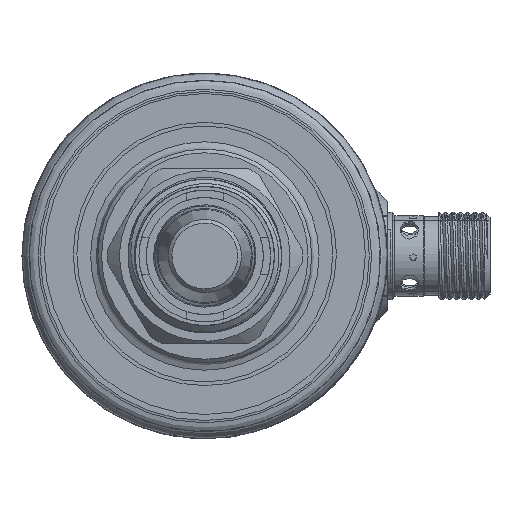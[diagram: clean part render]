
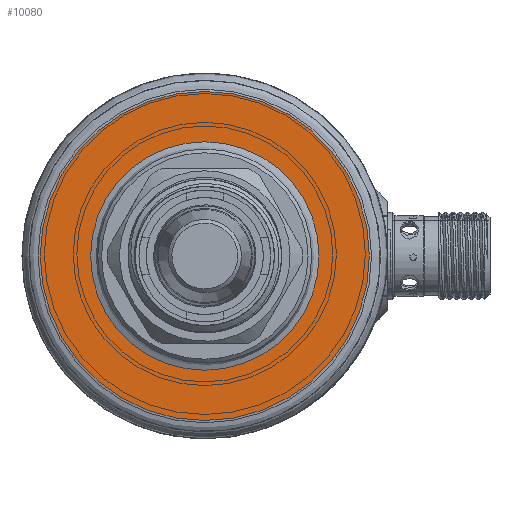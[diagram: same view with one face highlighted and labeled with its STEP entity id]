
A CAD part, front view. The second image highlights one B-rep face of the part: STEP entity #10080.
In plain terms, the highlighted planar face has unit normal (0, -1, 0) as drawn and (-1, 0, 0) by its records, which use the part's own axes.
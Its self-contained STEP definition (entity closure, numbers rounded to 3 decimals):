
#128 = ORIENTED_EDGE ( 'NONE', *, *, #8220, .T. ) ;
#1310 = DIRECTION ( 'NONE',  ( 1., 0., 0. ) ) ;
#1451 = FACE_BOUND ( 'NONE', #10047, .T. ) ;
#2347 = FACE_OUTER_BOUND ( 'NONE', #7495, .T. ) ;
#2464 = DIRECTION ( 'NONE',  ( 0., 0., -1. ) ) ;
#2539 = EDGE_CURVE ( 'NONE', #5424, #5424, #3896, .T. ) ;
#2781 = AXIS2_PLACEMENT_3D ( 'NONE', #9494, #4130, #10416 ) ;
#3043 = AXIS2_PLACEMENT_3D ( 'NONE', #12117, #9794, #2464 ) ;
#3316 = CARTESIAN_POINT ( 'NONE',  ( 41., 0., -22.775 ) ) ;
#3896 = CIRCLE ( 'NONE', #2781, 22.5 ) ;
#4130 = DIRECTION ( 'NONE',  ( -1., 0., 0. ) ) ;
#5424 = VERTEX_POINT ( 'NONE', #3316 ) ;
#5581 = CARTESIAN_POINT ( 'NONE',  ( 41., 0., -0.275 ) ) ;
#7495 = EDGE_LOOP ( 'NONE', ( #9924 ) ) ;
#7758 = PLANE ( 'NONE',  #12580 ) ;
#8220 = EDGE_CURVE ( 'NONE', #9315, #9315, #10478, .T. ) ;
#9315 = VERTEX_POINT ( 'NONE', #13606 ) ;
#9494 = CARTESIAN_POINT ( 'NONE',  ( 41., 0., -0.275 ) ) ;
#9794 = DIRECTION ( 'NONE',  ( 1., 0., 0. ) ) ;
#9924 = ORIENTED_EDGE ( 'NONE', *, *, #2539, .T. ) ;
#10047 = EDGE_LOOP ( 'NONE', ( #128 ) ) ;
#10080 = ADVANCED_FACE ( 'NONE', ( #1451, #2347 ), #7758, .F. ) ;
#10416 = DIRECTION ( 'NONE',  ( 0., 0., -1. ) ) ;
#10478 = CIRCLE ( 'NONE', #3043, 15.62 ) ;
#12117 = CARTESIAN_POINT ( 'NONE',  ( 41., 0., -0.275 ) ) ;
#12580 = AXIS2_PLACEMENT_3D ( 'NONE', #5581, #1310, #13254 ) ;
#13254 = DIRECTION ( 'NONE',  ( 0., 0., -1. ) ) ;
#13606 = CARTESIAN_POINT ( 'NONE',  ( 41., 0., -15.895 ) ) ;
